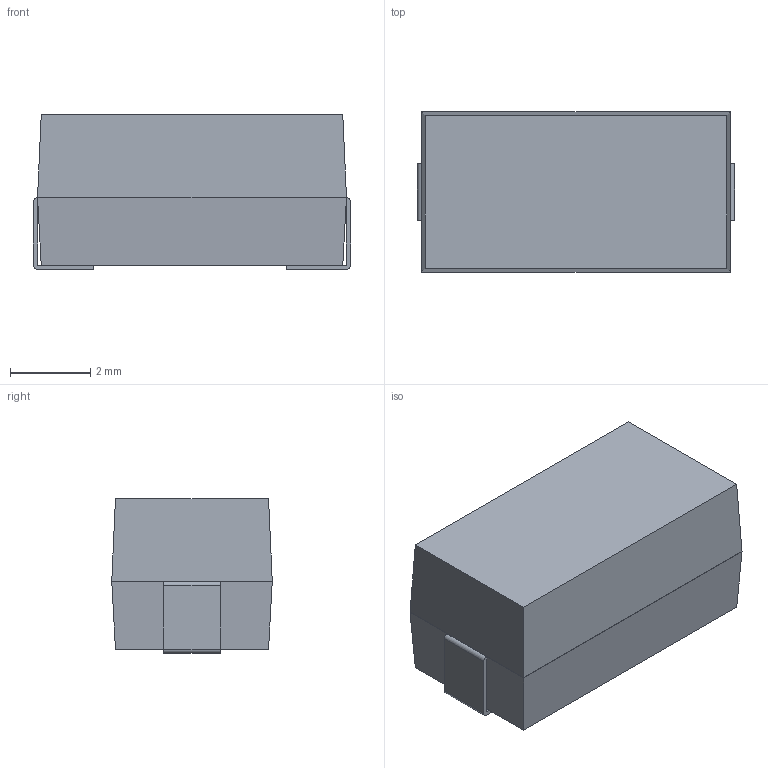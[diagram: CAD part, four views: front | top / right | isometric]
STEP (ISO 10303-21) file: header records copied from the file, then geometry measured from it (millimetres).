
FILE_DESCRIPTION(('FreeCAD Model'),'2;1');
FILE_NAME('/var/www/3D/0T/189955.1.1.stp','2020-04-07T22:26:47',( 'Author'),(''),'Open CASCADE STEP processor 6.9','FreeCAD','Unknown' );
FILE_SCHEMA(('AUTOMOTIVE_DESIGN { 1 0 10303 214 1 1 1 1 }'));
Length unit declared in the file: millimetre
Products named in the file (4): ASSEMBLY; Chamfer; FilletPin1; FilletPin2
Assembly tree (3 placements, depth 2):
  ASSEMBLY
    Chamfer
    FilletPin1
    FilletPin2
Bounding box: 7.9 x 4 x 3.85 mm (x, y, z)
Volume: 112.7 mm3; surface area: 171.6 mm2
Topology: 3 solids, 3 shells, 38 faces, 88 edges, 56 vertices
Faces by surface type: plane 34, cylinder 4
Entity records: 2300 total; most frequent: CARTESIAN_POINT 390, DIRECTION 348, LINE 244, VECTOR 244, ORIENTED_EDGE 176, PCURVE 176, DEFINITIONAL_REPRESENTATION 176, EDGE_CURVE 88
